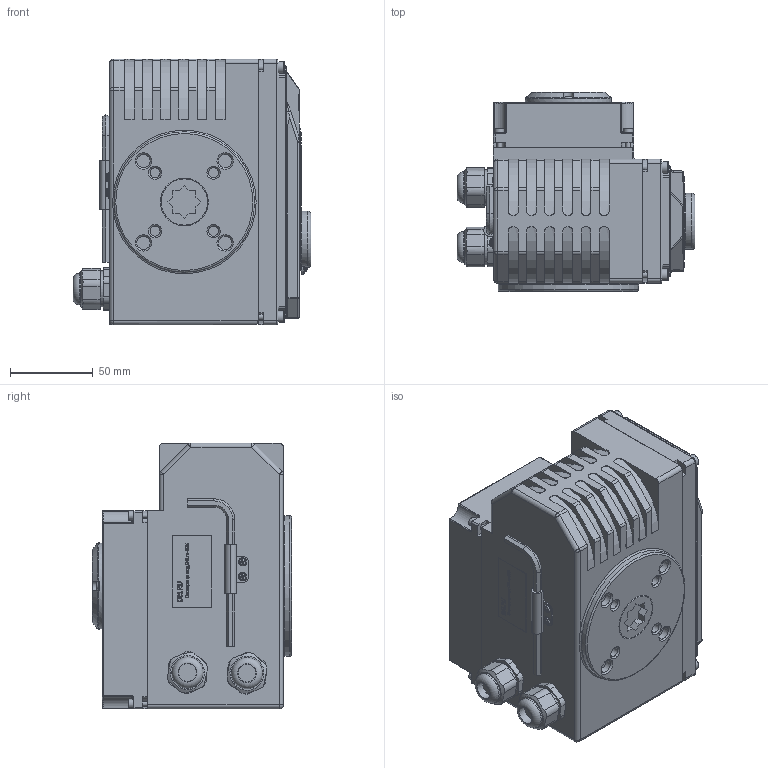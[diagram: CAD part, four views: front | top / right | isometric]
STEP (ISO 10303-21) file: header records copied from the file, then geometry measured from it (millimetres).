
FILE_DESCRIPTION(/* description */ ('D300-14477','CAx-IF Rec.Pracs.---Representation and Presentation of Product Manufacturing Information (PMI)---4.0---2014-10-13'),/* implementation_level */ '2;1');
FILE_NAME(/* name */ '',/* time_stamp */ '2026-04-01T01:15:18+03:00',/* author */ ('DN.RU'),/* organization */ ('DN.RU'),/* preprocessor_version */ 'ST-DEVELOPER v20',/* originating_system */ 'Autodesk Inventor 2025',/* authorisation */ '');
FILE_SCHEMA (('AP242_MANAGED_MODEL_BASED_3D_ENGINEERING_MIM_LF { 1 0 10303 442 1 1 4 }'));
Length unit declared in the file: millimetre
Products named in the file (1): QT-N-005EM-O1-220VAC-У1 HARK
Bounding box: 144.09 x 120.5 x 161 mm (x, y, z)
Volume: 1717997.9 mm3; surface area: 141845.4 mm2
Topology: 1 solids, 1 shells, 1336 faces, 3580 edges, 2331 vertices
Faces by surface type: plane 631, bspline 268, cylinder 249, cone 91, torus 71, sphere 26
Full cylindrical faces by diameter (mm): 3 x4, 4 x4, 5.5 x4, 6 x4, 7 x4, 8 x4, 10.772 x2, 18.963 x2, 21.521 x2, 28 x1, 29 x1, 34.169 x1, 34.486 x1, 40 x1, 42.826 x1, 52 x1, 85 x1
Entity records: 46689 total; most frequent: CARTESIAN_POINT 13780, ORIENTED_EDGE 7126, DIRECTION 5675, EDGE_CURVE 3563, VERTEX_POINT 2331, LINE 1903, VECTOR 1903, AXIS2_PLACEMENT_3D 1886
